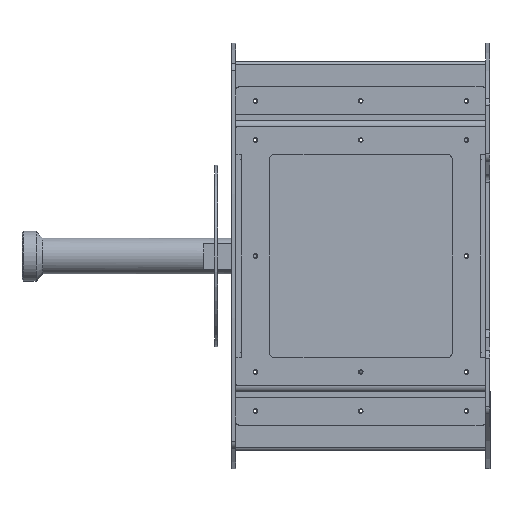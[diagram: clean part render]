
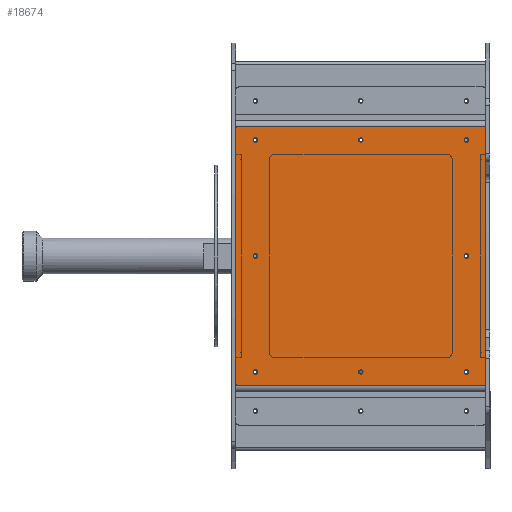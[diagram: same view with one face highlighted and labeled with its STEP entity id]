
A CAD part, left-side view. The second image highlights one B-rep face of the part: STEP entity #18674.
In plain terms, the highlighted planar face has unit normal (-1, 0, 0).
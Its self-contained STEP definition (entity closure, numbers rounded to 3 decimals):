
#869=FACE_BOUND('',#4024,.T.);
#870=FACE_BOUND('',#4025,.T.);
#871=FACE_BOUND('',#4026,.T.);
#872=FACE_BOUND('',#4027,.T.);
#873=FACE_BOUND('',#4028,.T.);
#874=FACE_BOUND('',#4029,.T.);
#875=FACE_BOUND('',#4030,.T.);
#876=FACE_BOUND('',#4031,.T.);
#1325=PLANE('',#20910);
#2323=FACE_OUTER_BOUND('',#4023,.T.);
#4023=EDGE_LOOP('',(#16942,#16943,#16944,#16945,#16946,#16947,#16948,#16949));
#4024=EDGE_LOOP('',(#16950));
#4025=EDGE_LOOP('',(#16951));
#4026=EDGE_LOOP('',(#16952));
#4027=EDGE_LOOP('',(#16953));
#4028=EDGE_LOOP('',(#16954));
#4029=EDGE_LOOP('',(#16955));
#4030=EDGE_LOOP('',(#16956));
#4031=EDGE_LOOP('',(#16957));
#5416=LINE('',#31975,#6767);
#5419=LINE('',#31981,#6770);
#5420=LINE('',#31985,#6771);
#5421=LINE('',#31989,#6772);
#6767=VECTOR('',#26476,10.);
#6770=VECTOR('',#26481,10.);
#6771=VECTOR('',#26484,10.);
#6772=VECTOR('',#26487,10.);
#7895=CIRCLE('',#20908,2.);
#7896=CIRCLE('',#20911,2.);
#7897=CIRCLE('',#20912,2.);
#7898=CIRCLE('',#20913,2.);
#7899=CIRCLE('',#20914,1.6);
#7900=CIRCLE('',#20915,1.6);
#7901=CIRCLE('',#20916,1.6);
#7902=CIRCLE('',#20917,1.6);
#7903=CIRCLE('',#20918,1.6);
#7904=CIRCLE('',#20919,1.6);
#7905=CIRCLE('',#20920,1.6);
#7906=CIRCLE('',#20921,1.6);
#9504=VERTEX_POINT('',#31968);
#9505=VERTEX_POINT('',#31970);
#9506=VERTEX_POINT('',#31974);
#9508=VERTEX_POINT('',#31980);
#9509=VERTEX_POINT('',#31982);
#9510=VERTEX_POINT('',#31984);
#9511=VERTEX_POINT('',#31986);
#9512=VERTEX_POINT('',#31988);
#9513=VERTEX_POINT('',#31991);
#9514=VERTEX_POINT('',#31993);
#9515=VERTEX_POINT('',#31995);
#9516=VERTEX_POINT('',#31997);
#9517=VERTEX_POINT('',#31999);
#9518=VERTEX_POINT('',#32001);
#9519=VERTEX_POINT('',#32003);
#9520=VERTEX_POINT('',#32005);
#11992=EDGE_CURVE('',#9504,#9505,#7895,.T.);
#11994=EDGE_CURVE('',#9506,#9505,#5416,.T.);
#11997=EDGE_CURVE('',#9504,#9508,#5419,.T.);
#11998=EDGE_CURVE('',#9509,#9508,#7896,.T.);
#11999=EDGE_CURVE('',#9509,#9510,#5420,.T.);
#12000=EDGE_CURVE('',#9511,#9510,#7897,.T.);
#12001=EDGE_CURVE('',#9511,#9512,#5421,.T.);
#12002=EDGE_CURVE('',#9506,#9512,#7898,.T.);
#12003=EDGE_CURVE('',#9513,#9513,#7899,.T.);
#12004=EDGE_CURVE('',#9514,#9514,#7900,.T.);
#12005=EDGE_CURVE('',#9515,#9515,#7901,.T.);
#12006=EDGE_CURVE('',#9516,#9516,#7902,.T.);
#12007=EDGE_CURVE('',#9517,#9517,#7903,.T.);
#12008=EDGE_CURVE('',#9518,#9518,#7904,.T.);
#12009=EDGE_CURVE('',#9519,#9519,#7905,.T.);
#12010=EDGE_CURVE('',#9520,#9520,#7906,.T.);
#16942=ORIENTED_EDGE('',*,*,#11992,.F.);
#16943=ORIENTED_EDGE('',*,*,#11997,.T.);
#16944=ORIENTED_EDGE('',*,*,#11998,.F.);
#16945=ORIENTED_EDGE('',*,*,#11999,.T.);
#16946=ORIENTED_EDGE('',*,*,#12000,.F.);
#16947=ORIENTED_EDGE('',*,*,#12001,.T.);
#16948=ORIENTED_EDGE('',*,*,#12002,.F.);
#16949=ORIENTED_EDGE('',*,*,#11994,.T.);
#16950=ORIENTED_EDGE('',*,*,#12003,.F.);
#16951=ORIENTED_EDGE('',*,*,#12004,.F.);
#16952=ORIENTED_EDGE('',*,*,#12005,.F.);
#16953=ORIENTED_EDGE('',*,*,#12006,.F.);
#16954=ORIENTED_EDGE('',*,*,#12007,.F.);
#16955=ORIENTED_EDGE('',*,*,#12008,.F.);
#16956=ORIENTED_EDGE('',*,*,#12009,.F.);
#16957=ORIENTED_EDGE('',*,*,#12010,.F.);
#18674=ADVANCED_FACE('',(#2323,#869,#870,#871,#872,#873,#874,#875,#876),
#1325,.F.);
#20908=AXIS2_PLACEMENT_3D('',#31971,#26471,#26472);
#20910=AXIS2_PLACEMENT_3D('',#31979,#26479,#26480);
#20911=AXIS2_PLACEMENT_3D('',#31983,#26482,#26483);
#20912=AXIS2_PLACEMENT_3D('',#31987,#26485,#26486);
#20913=AXIS2_PLACEMENT_3D('',#31990,#26488,#26489);
#20914=AXIS2_PLACEMENT_3D('',#31992,#26490,#26491);
#20915=AXIS2_PLACEMENT_3D('',#31994,#26492,#26493);
#20916=AXIS2_PLACEMENT_3D('',#31996,#26494,#26495);
#20917=AXIS2_PLACEMENT_3D('',#31998,#26496,#26497);
#20918=AXIS2_PLACEMENT_3D('',#32000,#26498,#26499);
#20919=AXIS2_PLACEMENT_3D('',#32002,#26500,#26501);
#20920=AXIS2_PLACEMENT_3D('',#32004,#26502,#26503);
#20921=AXIS2_PLACEMENT_3D('',#32006,#26504,#26505);
#26471=DIRECTION('center_axis',(1.,0.,0.));
#26472=DIRECTION('ref_axis',(0.,-0.707,-0.707));
#26476=DIRECTION('',(0.,-1.,0.));
#26479=DIRECTION('center_axis',(1.,0.,0.));
#26480=DIRECTION('ref_axis',(0.,0.,-1.));
#26481=DIRECTION('',(0.,0.,1.));
#26482=DIRECTION('center_axis',(1.,0.,0.));
#26483=DIRECTION('ref_axis',(0.,-0.707,0.707));
#26484=DIRECTION('',(0.,1.,0.));
#26485=DIRECTION('center_axis',(1.,0.,0.));
#26486=DIRECTION('ref_axis',(0.,0.707,0.707));
#26487=DIRECTION('',(0.,0.,-1.));
#26488=DIRECTION('center_axis',(1.,0.,0.));
#26489=DIRECTION('ref_axis',(0.,0.707,-0.707));
#26490=DIRECTION('center_axis',(-1.,0.,0.));
#26491=DIRECTION('ref_axis',(0.,0.,-1.));
#26492=DIRECTION('center_axis',(-1.,0.,0.));
#26493=DIRECTION('ref_axis',(0.,0.,-1.));
#26494=DIRECTION('center_axis',(-1.,0.,0.));
#26495=DIRECTION('ref_axis',(0.,0.,-1.));
#26496=DIRECTION('center_axis',(-1.,0.,0.));
#26497=DIRECTION('ref_axis',(0.,0.,-1.));
#26498=DIRECTION('center_axis',(-1.,0.,0.));
#26499=DIRECTION('ref_axis',(0.,0.,-1.));
#26500=DIRECTION('center_axis',(-1.,0.,0.));
#26501=DIRECTION('ref_axis',(0.,0.,-1.));
#26502=DIRECTION('center_axis',(-1.,0.,0.));
#26503=DIRECTION('ref_axis',(0.,0.,-1.));
#26504=DIRECTION('center_axis',(-1.,0.,0.));
#26505=DIRECTION('ref_axis',(0.,0.,-1.));
#31968=CARTESIAN_POINT('',(-90.,-116.5,-195.803));
#31970=CARTESIAN_POINT('',(-90.,-114.5,-197.803));
#31971=CARTESIAN_POINT('Origin',(-90.,-114.5,-195.803));
#31974=CARTESIAN_POINT('',(-90.,60.5,-197.803));
#31975=CARTESIAN_POINT('',(-90.,62.5,-197.803));
#31979=CARTESIAN_POINT('Origin',(-90.,-27.,-104.803));
#31980=CARTESIAN_POINT('',(-90.,-116.5,-13.803));
#31981=CARTESIAN_POINT('',(-90.,-116.5,-197.803));
#31982=CARTESIAN_POINT('',(-90.,-114.5,-11.803));
#31983=CARTESIAN_POINT('Origin',(-90.,-114.5,-13.803));
#31984=CARTESIAN_POINT('',(-90.,60.5,-11.803));
#31985=CARTESIAN_POINT('',(-90.,-116.5,-11.803));
#31986=CARTESIAN_POINT('',(-90.,62.5,-13.803));
#31987=CARTESIAN_POINT('Origin',(-90.,60.5,-13.803));
#31988=CARTESIAN_POINT('',(-90.,62.5,-195.803));
#31989=CARTESIAN_POINT('',(-90.,62.5,-11.803));
#31990=CARTESIAN_POINT('Origin',(-90.,60.5,-195.803));
#31991=CARTESIAN_POINT('',(-90.,-27.,-186.203));
#31992=CARTESIAN_POINT('Origin',(-90.,-27.,-187.803));
#31993=CARTESIAN_POINT('',(-90.,-27.,-20.203));
#31994=CARTESIAN_POINT('Origin',(-90.,-27.,-21.803));
#31995=CARTESIAN_POINT('',(-90.,-102.5,-20.203));
#31996=CARTESIAN_POINT('Origin',(-90.,-102.5,-21.803));
#31997=CARTESIAN_POINT('',(-90.,-102.5,-186.203));
#31998=CARTESIAN_POINT('Origin',(-90.,-102.5,-187.803));
#31999=CARTESIAN_POINT('',(-90.,48.5,-186.203));
#32000=CARTESIAN_POINT('Origin',(-90.,48.5,-187.803));
#32001=CARTESIAN_POINT('',(-90.,48.5,-20.203));
#32002=CARTESIAN_POINT('Origin',(-90.,48.5,-21.803));
#32003=CARTESIAN_POINT('',(-90.,-102.5,-103.203));
#32004=CARTESIAN_POINT('Origin',(-90.,-102.5,-104.803));
#32005=CARTESIAN_POINT('',(-90.,48.5,-103.203));
#32006=CARTESIAN_POINT('Origin',(-90.,48.5,-104.803));
